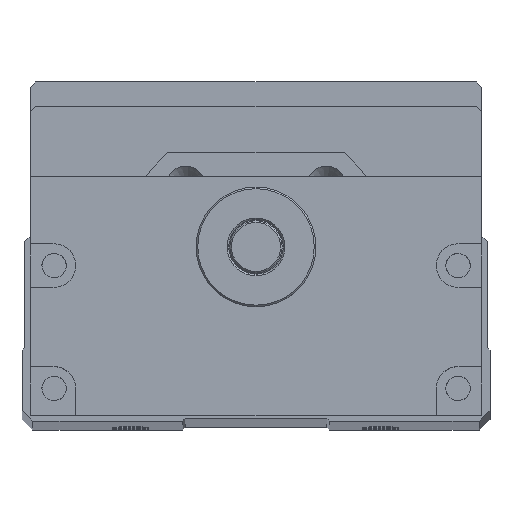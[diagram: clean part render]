
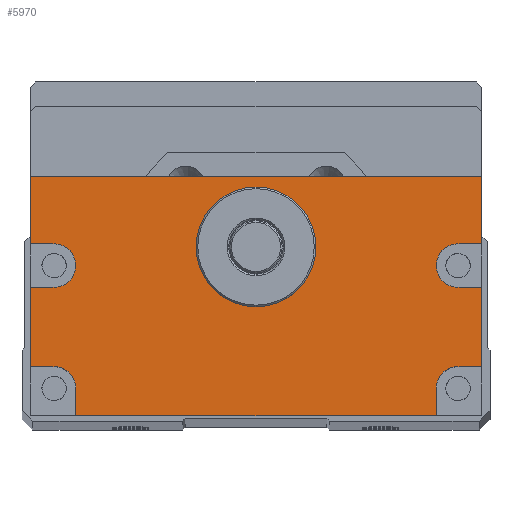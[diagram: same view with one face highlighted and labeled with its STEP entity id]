
A CAD part, top view. The second image highlights one B-rep face of the part: STEP entity #5970.
In plain terms, the highlighted planar face has unit normal (0, 0, 1).
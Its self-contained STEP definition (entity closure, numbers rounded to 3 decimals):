
#5970=ADVANCED_FACE('',(#8422,#8423),#6512,.T.);
#6512=PLANE('',#16138);
#6927=LINE('',#29406,#7676);
#6929=LINE('',#29410,#7678);
#6930=LINE('',#29413,#7679);
#6931=LINE('',#29415,#7680);
#6932=LINE('',#29419,#7681);
#6933=LINE('',#29421,#7682);
#6934=LINE('',#29422,#7683);
#6935=LINE('',#29424,#7684);
#6936=LINE('',#29428,#7685);
#6937=LINE('',#29430,#7686);
#6938=LINE('',#29432,#7687);
#6939=LINE('',#29436,#7688);
#6940=LINE('',#29438,#7689);
#6941=LINE('',#29440,#7690);
#7676=VECTOR('',#17748,1.);
#7678=VECTOR('',#17752,1.);
#7679=VECTOR('',#17753,1.);
#7680=VECTOR('',#17754,1.);
#7681=VECTOR('',#17757,1.);
#7682=VECTOR('',#17758,1.);
#7683=VECTOR('',#17759,1.);
#7684=VECTOR('',#17760,1.);
#7685=VECTOR('',#17763,1.);
#7686=VECTOR('',#17764,1.);
#7687=VECTOR('',#17765,1.);
#7688=VECTOR('',#17768,1.);
#7689=VECTOR('',#17769,1.);
#7690=VECTOR('',#17770,1.);
#8422=FACE_BOUND('',#9085,.T.);
#8423=FACE_BOUND('',#9086,.T.);
#9085=EDGE_LOOP('',(#10663,#10664,#10665,#10666,#10667,#10668,#10669,#10670,
#10671,#10672,#10673,#10674,#10675,#10676,#10677,#10678,#10679,#10680));
#9086=EDGE_LOOP('',(#10681));
#10663=ORIENTED_EDGE('',*,*,#14302,.F.);
#10664=ORIENTED_EDGE('',*,*,#14303,.T.);
#10665=ORIENTED_EDGE('',*,*,#14304,.F.);
#10666=ORIENTED_EDGE('',*,*,#14305,.F.);
#10667=ORIENTED_EDGE('',*,*,#14306,.F.);
#10668=ORIENTED_EDGE('',*,*,#14307,.T.);
#10669=ORIENTED_EDGE('',*,*,#14300,.T.);
#10670=ORIENTED_EDGE('',*,*,#14308,.T.);
#10671=ORIENTED_EDGE('',*,*,#14309,.F.);
#10672=ORIENTED_EDGE('',*,*,#14310,.F.);
#10673=ORIENTED_EDGE('',*,*,#14311,.F.);
#10674=ORIENTED_EDGE('',*,*,#14312,.T.);
#10675=ORIENTED_EDGE('',*,*,#14313,.F.);
#10676=ORIENTED_EDGE('',*,*,#14314,.F.);
#10677=ORIENTED_EDGE('',*,*,#14315,.F.);
#10678=ORIENTED_EDGE('',*,*,#14316,.T.);
#10679=ORIENTED_EDGE('',*,*,#14317,.F.);
#10680=ORIENTED_EDGE('',*,*,#14318,.F.);
#10681=ORIENTED_EDGE('',*,*,#14286,.T.);
#13074=VERTEX_POINT('',#29377);
#13087=VERTEX_POINT('',#29405);
#13088=VERTEX_POINT('',#29407);
#13089=VERTEX_POINT('',#29411);
#13090=VERTEX_POINT('',#29412);
#13091=VERTEX_POINT('',#29414);
#13092=VERTEX_POINT('',#29416);
#13093=VERTEX_POINT('',#29418);
#13094=VERTEX_POINT('',#29420);
#13095=VERTEX_POINT('',#29423);
#13096=VERTEX_POINT('',#29425);
#13097=VERTEX_POINT('',#29427);
#13098=VERTEX_POINT('',#29429);
#13099=VERTEX_POINT('',#29431);
#13100=VERTEX_POINT('',#29433);
#13101=VERTEX_POINT('',#29435);
#13102=VERTEX_POINT('',#29437);
#13103=VERTEX_POINT('',#29439);
#13104=VERTEX_POINT('',#29441);
#14286=EDGE_CURVE('',#13074,#13074,#15481,.T.);
#14300=EDGE_CURVE('',#13088,#13087,#6927,.T.);
#14302=EDGE_CURVE('',#13089,#13090,#6929,.T.);
#14303=EDGE_CURVE('',#13089,#13091,#6930,.T.);
#14304=EDGE_CURVE('',#13092,#13091,#6931,.T.);
#14305=EDGE_CURVE('',#13093,#13092,#15490,.T.);
#14306=EDGE_CURVE('',#13094,#13093,#6932,.T.);
#14307=EDGE_CURVE('',#13094,#13088,#6933,.T.);
#14308=EDGE_CURVE('',#13087,#13095,#6934,.T.);
#14309=EDGE_CURVE('',#13096,#13095,#6935,.T.);
#14310=EDGE_CURVE('',#13097,#13096,#15491,.T.);
#14311=EDGE_CURVE('',#13098,#13097,#6936,.T.);
#14312=EDGE_CURVE('',#13098,#13099,#6937,.T.);
#14313=EDGE_CURVE('',#13100,#13099,#6938,.T.);
#14314=EDGE_CURVE('',#13101,#13100,#15492,.T.);
#14315=EDGE_CURVE('',#13102,#13101,#6939,.T.);
#14316=EDGE_CURVE('',#13102,#13103,#6940,.T.);
#14317=EDGE_CURVE('',#13104,#13103,#6941,.T.);
#14318=EDGE_CURVE('',#13090,#13104,#15493,.T.);
#15481=CIRCLE('',#16122,11.);
#15490=CIRCLE('',#16134,4.);
#15491=CIRCLE('',#16135,4.);
#15492=CIRCLE('',#16136,4.);
#15493=CIRCLE('',#16137,4.);
#16122=AXIS2_PLACEMENT_3D('',#29376,#17721,#17722);
#16134=AXIS2_PLACEMENT_3D('',#29417,#17755,#17756);
#16135=AXIS2_PLACEMENT_3D('',#29426,#17761,#17762);
#16136=AXIS2_PLACEMENT_3D('',#29434,#17766,#17767);
#16137=AXIS2_PLACEMENT_3D('',#29442,#17771,#17772);
#16138=AXIS2_PLACEMENT_3D('',#29443,#17773,#17774);
#17721=DIRECTION('',(0.,0.,-1.));
#17722=DIRECTION('',(1.,0.,0.));
#17748=DIRECTION('',(-1.,0.,0.));
#17752=DIRECTION('',(-1.,0.,0.));
#17753=DIRECTION('',(0.,1.,0.));
#17754=DIRECTION('',(1.,0.,0.));
#17755=DIRECTION('',(0.,0.,1.));
#17756=DIRECTION('',(1.,0.,0.));
#17757=DIRECTION('',(-1.,0.,0.));
#17758=DIRECTION('',(0.,1.,0.));
#17759=DIRECTION('',(0.,-1.,0.));
#17760=DIRECTION('',(-1.,0.,0.));
#17761=DIRECTION('',(0.,0.,1.));
#17762=DIRECTION('',(1.,0.,0.));
#17763=DIRECTION('',(1.,0.,0.));
#17764=DIRECTION('',(0.,-1.,0.));
#17765=DIRECTION('',(-1.,0.,0.));
#17766=DIRECTION('',(0.,0.,1.));
#17767=DIRECTION('',(1.,0.,0.));
#17768=DIRECTION('',(0.,1.,0.));
#17769=DIRECTION('',(1.,0.,0.));
#17770=DIRECTION('',(0.,-1.,0.));
#17771=DIRECTION('',(0.,0.,1.));
#17772=DIRECTION('',(1.,0.,0.));
#17773=DIRECTION('',(0.,0.,1.));
#17774=DIRECTION('',(-1.,0.,0.));
#29376=CARTESIAN_POINT('',(0.,0.,782.5));
#29377=CARTESIAN_POINT('',(11.,0.,782.5));
#29405=CARTESIAN_POINT('',(-41.5,13.,782.5));
#29406=CARTESIAN_POINT('',(41.5,13.,782.5));
#29407=CARTESIAN_POINT('',(41.5,13.,782.5));
#29410=CARTESIAN_POINT('',(41.5,-22.,782.5));
#29411=CARTESIAN_POINT('',(41.5,-22.,782.5));
#29412=CARTESIAN_POINT('',(37.115,-22.,782.5));
#29413=CARTESIAN_POINT('',(41.5,-31.,782.5));
#29414=CARTESIAN_POINT('',(41.5,-7.431,782.5));
#29415=CARTESIAN_POINT('',(41.5,-7.431,782.5));
#29416=CARTESIAN_POINT('',(37.115,-7.431,782.5));
#29417=CARTESIAN_POINT('',(37.115,-3.431,782.5));
#29418=CARTESIAN_POINT('',(37.115,0.569,782.5));
#29419=CARTESIAN_POINT('',(41.5,0.569,782.5));
#29420=CARTESIAN_POINT('',(41.5,0.569,782.5));
#29421=CARTESIAN_POINT('',(41.5,-31.,782.5));
#29422=CARTESIAN_POINT('',(-41.5,27.5,782.5));
#29423=CARTESIAN_POINT('',(-41.5,0.569,782.5));
#29424=CARTESIAN_POINT('',(41.5,0.569,782.5));
#29425=CARTESIAN_POINT('',(-37.115,0.569,782.5));
#29426=CARTESIAN_POINT('',(-37.115,-3.431,782.5));
#29427=CARTESIAN_POINT('',(-37.115,-7.431,782.5));
#29428=CARTESIAN_POINT('',(41.5,-7.431,782.5));
#29429=CARTESIAN_POINT('',(-41.5,-7.431,782.5));
#29430=CARTESIAN_POINT('',(-41.5,27.5,782.5));
#29431=CARTESIAN_POINT('',(-41.5,-22.,782.5));
#29432=CARTESIAN_POINT('',(41.5,-22.,782.5));
#29433=CARTESIAN_POINT('',(-37.115,-22.,782.5));
#29434=CARTESIAN_POINT('',(-37.115,-26.,782.5));
#29435=CARTESIAN_POINT('',(-33.115,-26.,782.5));
#29436=CARTESIAN_POINT('',(-33.115,-31.,782.5));
#29437=CARTESIAN_POINT('',(-33.115,-31.,782.5));
#29438=CARTESIAN_POINT('',(-41.5,-31.,782.5));
#29439=CARTESIAN_POINT('',(33.115,-31.,782.5));
#29440=CARTESIAN_POINT('',(33.115,-31.,782.5));
#29441=CARTESIAN_POINT('',(33.115,-26.,782.5));
#29442=CARTESIAN_POINT('',(37.115,-26.,782.5));
#29443=CARTESIAN_POINT('',(41.5,-31.,782.5));
